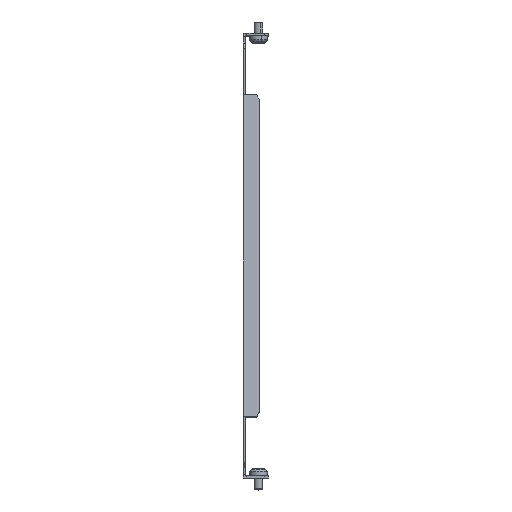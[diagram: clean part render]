
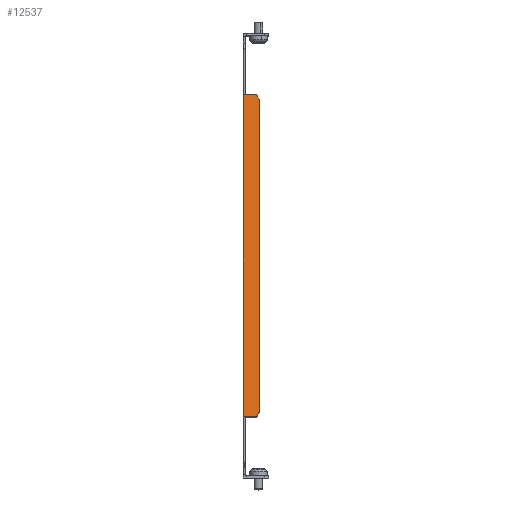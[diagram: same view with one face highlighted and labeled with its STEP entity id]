
A CAD part, top view. The second image highlights one B-rep face of the part: STEP entity #12537.
In plain terms, the highlighted planar face has unit normal (0.5, 0, 0.866).
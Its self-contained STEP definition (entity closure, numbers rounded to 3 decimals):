
#128 = ORIENTED_EDGE ( 'NONE', *, *, #15190, .F. ) ;
#488 = VECTOR ( 'NONE', #6029, 1000. ) ;
#503 = VERTEX_POINT ( 'NONE', #1378 ) ;
#831 = LINE ( 'NONE', #3059, #488 ) ;
#870 = CARTESIAN_POINT ( 'NONE',  ( 8.803, -110.75, 195.114 ) ) ;
#936 = VERTEX_POINT ( 'NONE', #11595 ) ;
#1200 = ORIENTED_EDGE ( 'NONE', *, *, #7742, .T. ) ;
#1378 = CARTESIAN_POINT ( 'NONE',  ( 11.401, 107.75, 193.614 ) ) ;
#1633 = DIRECTION ( 'NONE',  ( -0.866, 0., 0.5 ) ) ;
#1847 = CARTESIAN_POINT ( 'NONE',  ( 85.562, 0., 150.797 ) ) ;
#2410 = EDGE_LOOP ( 'NONE', ( #13825, #8593, #16623, #3376, #6643, #16347, #1200, #128 ) ) ;
#3059 = CARTESIAN_POINT ( 'NONE',  ( 85.562, -110.75, 150.797 ) ) ;
#3352 = DIRECTION ( 'NONE',  ( -0.612, 0.707, 0.354 ) ) ;
#3376 = ORIENTED_EDGE ( 'NONE', *, *, #10842, .T. ) ;
#3500 = VECTOR ( 'NONE', #13139, 1000. ) ;
#3645 = LINE ( 'NONE', #6030, #13369 ) ;
#4474 = EDGE_CURVE ( 'NONE', #9206, #6157, #16053, .T. ) ;
#4876 = CARTESIAN_POINT ( 'NONE',  ( 4.5, 110.75, 197.598 ) ) ;
#5278 = VERTEX_POINT ( 'NONE', #9170 ) ;
#5681 = AXIS2_PLACEMENT_3D ( 'NONE', #1847, #16277, #16114 ) ;
#6029 = DIRECTION ( 'NONE',  ( -0.866, 0., 0.5 ) ) ;
#6030 = CARTESIAN_POINT ( 'NONE',  ( 11.401, -110.75, 193.614 ) ) ;
#6157 = VERTEX_POINT ( 'NONE', #10732 ) ;
#6230 = VECTOR ( 'NONE', #3352, 1000. ) ;
#6643 = ORIENTED_EDGE ( 'NONE', *, *, #14766, .F. ) ;
#7142 = FACE_OUTER_BOUND ( 'NONE', #2410, .T. ) ;
#7414 = LINE ( 'NONE', #9387, #15648 ) ;
#7742 = EDGE_CURVE ( 'NONE', #6157, #936, #15594, .T. ) ;
#7820 = DIRECTION ( 'NONE',  ( 0., -1., 0. ) ) ;
#8169 = CARTESIAN_POINT ( 'NONE',  ( 2.25, -110.75, 198.897 ) ) ;
#8593 = ORIENTED_EDGE ( 'NONE', *, *, #12183, .T. ) ;
#8803 = LINE ( 'NONE', #13935, #6230 ) ;
#9170 = CARTESIAN_POINT ( 'NONE',  ( 4.5, -110.75, 197.598 ) ) ;
#9183 = LINE ( 'NONE', #8169, #11956 ) ;
#9206 = VERTEX_POINT ( 'NONE', #4876 ) ;
#9387 = CARTESIAN_POINT ( 'NONE',  ( 11.401, 110.75, 193.614 ) ) ;
#9465 = CARTESIAN_POINT ( 'NONE',  ( 4.5, 110.75, 197.598 ) ) ;
#9687 = PLANE ( 'NONE',  #5681 ) ;
#9975 = EDGE_CURVE ( 'NONE', #503, #14915, #3645, .T. ) ;
#10732 = CARTESIAN_POINT ( 'NONE',  ( 0., 110.75, 200.196 ) ) ;
#10842 = EDGE_CURVE ( 'NONE', #503, #13353, #8803, .T. ) ;
#11004 = EDGE_CURVE ( 'NONE', #13116, #5278, #9183, .T. ) ;
#11335 = VECTOR ( 'NONE', #1633, 1000. ) ;
#11534 = LINE ( 'NONE', #12964, #3500 ) ;
#11595 = CARTESIAN_POINT ( 'NONE',  ( 0., -110.75, 200.196 ) ) ;
#11956 = VECTOR ( 'NONE', #14406, 1000. ) ;
#12183 = EDGE_CURVE ( 'NONE', #13116, #14915, #11534, .T. ) ;
#12537 = ADVANCED_FACE ( 'NONE', ( #7142 ), #9687, .F. ) ;
#12964 = CARTESIAN_POINT ( 'NONE',  ( 11.401, -107.75, 193.614 ) ) ;
#13113 = CARTESIAN_POINT ( 'NONE',  ( 0., 0., 200.196 ) ) ;
#13116 = VERTEX_POINT ( 'NONE', #870 ) ;
#13139 = DIRECTION ( 'NONE',  ( 0.612, 0.707, -0.354 ) ) ;
#13353 = VERTEX_POINT ( 'NONE', #14422 ) ;
#13369 = VECTOR ( 'NONE', #15082, 1000. ) ;
#13825 = ORIENTED_EDGE ( 'NONE', *, *, #11004, .F. ) ;
#13908 = VECTOR ( 'NONE', #7820, 1000. ) ;
#13935 = CARTESIAN_POINT ( 'NONE',  ( 8.803, 110.75, 195.114 ) ) ;
#14406 = DIRECTION ( 'NONE',  ( -0.866, 0., 0.5 ) ) ;
#14422 = CARTESIAN_POINT ( 'NONE',  ( 8.803, 110.75, 195.114 ) ) ;
#14766 = EDGE_CURVE ( 'NONE', #9206, #13353, #7414, .T. ) ;
#14779 = DIRECTION ( 'NONE',  ( 0.866, 0., -0.5 ) ) ;
#14915 = VERTEX_POINT ( 'NONE', #16887 ) ;
#15082 = DIRECTION ( 'NONE',  ( 0., -1., 0. ) ) ;
#15190 = EDGE_CURVE ( 'NONE', #5278, #936, #831, .T. ) ;
#15594 = LINE ( 'NONE', #13113, #13908 ) ;
#15648 = VECTOR ( 'NONE', #14779, 1000. ) ;
#16053 = LINE ( 'NONE', #9465, #11335 ) ;
#16114 = DIRECTION ( 'NONE',  ( -0.866, 0., 0.5 ) ) ;
#16277 = DIRECTION ( 'NONE',  ( -0.5, 0., -0.866 ) ) ;
#16347 = ORIENTED_EDGE ( 'NONE', *, *, #4474, .T. ) ;
#16623 = ORIENTED_EDGE ( 'NONE', *, *, #9975, .F. ) ;
#16887 = CARTESIAN_POINT ( 'NONE',  ( 11.401, -107.75, 193.614 ) ) ;
